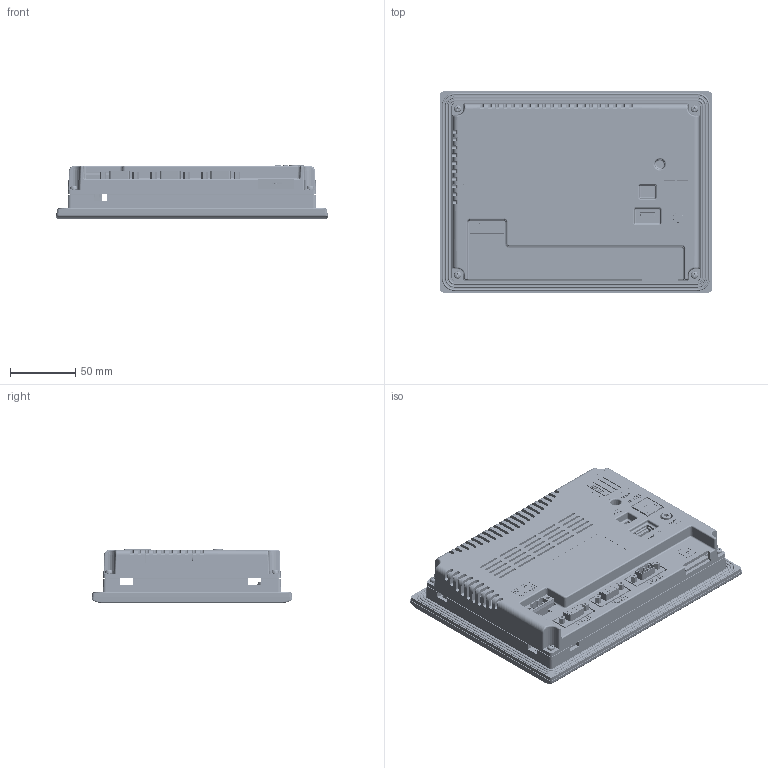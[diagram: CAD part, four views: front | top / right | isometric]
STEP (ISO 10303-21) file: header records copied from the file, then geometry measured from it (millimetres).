
FILE_DESCRIPTION((''),'2;1');
FILE_NAME('Z:\黃世程\4_可提供給客戶3D檔案\1_3D\EC207_3D.stp','2014-03-18T12:57:01',('11254'),(''),'Autodesk Inventor 2008','Autodesk Inventor 2008','');
FILE_SCHEMA(('AUTOMOTIVE_DESIGN { 1 0 10303 214 1 1 1 1 }'));
Length unit declared in the file: millimetre
Products named in the file (1): EC207_3D
Bounding box: 208 x 154 x 41.5 mm (x, y, z)
Volume: 370112.3 mm3; surface area: 287801.7 mm2
Topology: 5 solids, 5 shells, 15894 faces, 46206 edges, 30698 vertices
Faces by surface type: plane 14361, cylinder 891, bspline 509, cone 84, torus 37, sphere 12
Full cylindrical faces by diameter (mm): 0.4 x7, 0.5 x16, 0.508 x2, 0.55 x4, 0.6 x5, 0.772 x1, 0.8 x5, 0.9 x8, 1 x81, 2 x9, 2.459 x1, 2.694 x4, 3 x12, 3.1 x6, 3.2 x4, 3.3 x1, 3.5 x10, 4 x8, 4.5 x1, 5 x9, 5.2 x2, 6 x1, 7.8 x1, 9.8 x1, 13 x2
Entity records: 520772 total; most frequent: CARTESIAN_POINT 102934, ORIENTED_EDGE 91868, DIRECTION 77847, EDGE_CURVE 45934, VECTOR 42613, LINE 42613, VERTEX_POINT 30677, AXIS2_PLACEMENT_3D 17617
